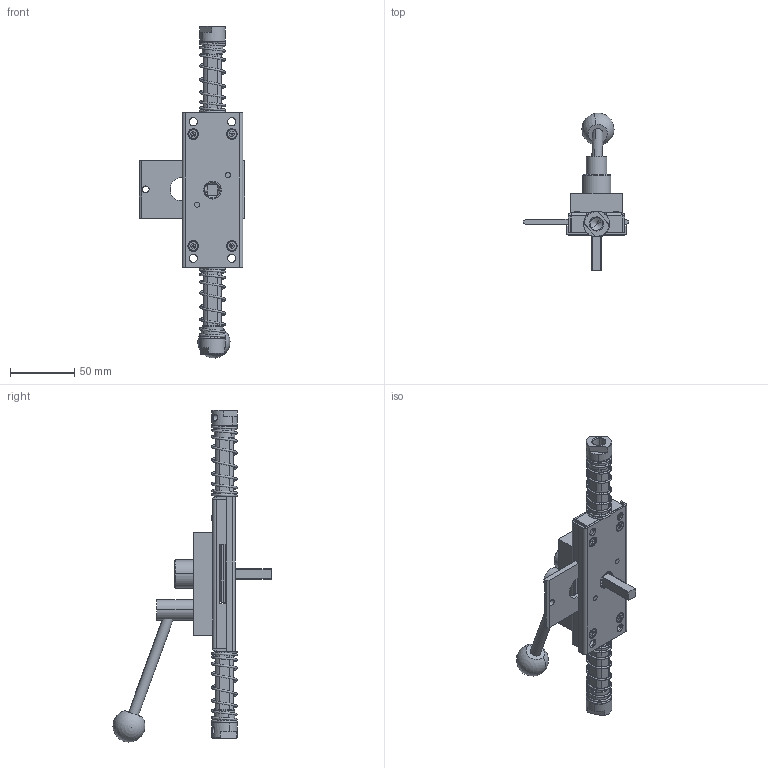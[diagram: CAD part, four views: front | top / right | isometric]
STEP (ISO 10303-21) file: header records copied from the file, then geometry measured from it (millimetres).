
FILE_DESCRIPTION (( 'STEP AP214' ), '1' );
FILE_NAME ('1B.ZWP8.002.L - zamek wewnetrzny panik ZWP.002 lewy.STEP', '2016-09-07T09:43:18', ( '' ), ( '' ), 'SwSTEP 2.0', 'SolidWorks 2015', '' );
FILE_SCHEMA (( 'AUTOMOTIVE_DESIGN' ));
Length unit declared in the file: millimetre
Products named in the file (37): 1B.ZW.007_A; MZP.001.02_A; 1B.ZW.006_A; MZP.001.01_A; 1B.ZW.005_B.L; M6 x 6 (IMBUS); 1B.ZW.005.04_A; 5.SP.001_A; 1B.ZW.005.03_B; M4_M4 x 25; 1B.ZW.005.02_A; M4_M4 x 8; 1B.ZW.005.01_A; 1B.SAP.000.00.03_1B.SAP.000.00.03.D10; 1B.ZW.004_A; 1B.ZW.003_A; 1B.ZW.001_A; 1B.ZW.013_B; 1B.ZW.002_C; 1B.ZW.014_K.02; 1B.ZW.015_A; 1B.ZWP8.002.L - zamek wewnetrzny panik ZWP.002 lewy; 1B.ZW.016_A; 1B.ZW.011.02_K.01; M4_M4 x 20; 1B.ZW.011_A; MZP.001_A; 1B.ZW.011.03_A; MZP.001.07_A; 1B.ZW.011.01_A; MZP.001.06_A; 1B.ZW.010_A; MZP.001.05_A; 1B.ZW.009_A; MZP.001.04_A; 1B.ZW.008_A; MZP.001.03_A
Assembly tree (44 placements, depth 3):
  1B.ZWP8.002.L - zamek wewnetrzny panik ZWP.002 lewy
    1B.ZW.002_C
    1B.ZW.001_A
    1B.ZW.004_A  x2
    1B.ZW.005_B.L  x2
      1B.ZW.005.01_A
      1B.ZW.005.02_A
      1B.ZW.005.03_B
      1B.ZW.005.04_A
    1B.ZW.006_A
    1B.ZW.007_A
    1B.ZW.008_A
    1B.ZW.009_A
    1B.ZW.010_A
    1B.ZW.011_A
      1B.ZW.011.01_A
      1B.ZW.011.03_A
    1B.ZW.011.02_K.01
    1B.ZW.016_A
    1B.ZW.015_A
    1B.ZW.014_K.02
    1B.ZW.013_B
    1B.ZW.003_A  x2
    1B.SAP.000.00.03_1B.SAP.000.00.03.D10  x2
    M4_M4 x 8  x2
    M4_M4 x 25  x2
    5.SP.001_A  x2
    M6 x 6 (IMBUS)
    MZP.001_A
      MZP.001.01_A
      MZP.001.02_A
      MZP.001.03_A
      MZP.001.04_A
      MZP.001.05_A
      MZP.001.06_A
      MZP.001.07_A
    M4_M4 x 20  x2
Bounding box: 82 x 122.94 x 258.07 mm (x, y, z)
Volume: 147585.1 mm3; surface area: 108327.9 mm2
Topology: 45 solids, 45 shells, 1401 faces, 3512 edges, 2221 vertices
Faces by surface type: cylinder 614, plane 543, cone 192, torus 32, bspline 18, sphere 2
Entity records: 49570 total; most frequent: CARTESIAN_POINT 18690, DIRECTION 6479, ORIENTED_EDGE 5870, EDGE_CURVE 2935, AXIS2_PLACEMENT_3D 2455, VERTEX_POINT 1882, VECTOR 1569, LINE 1569
